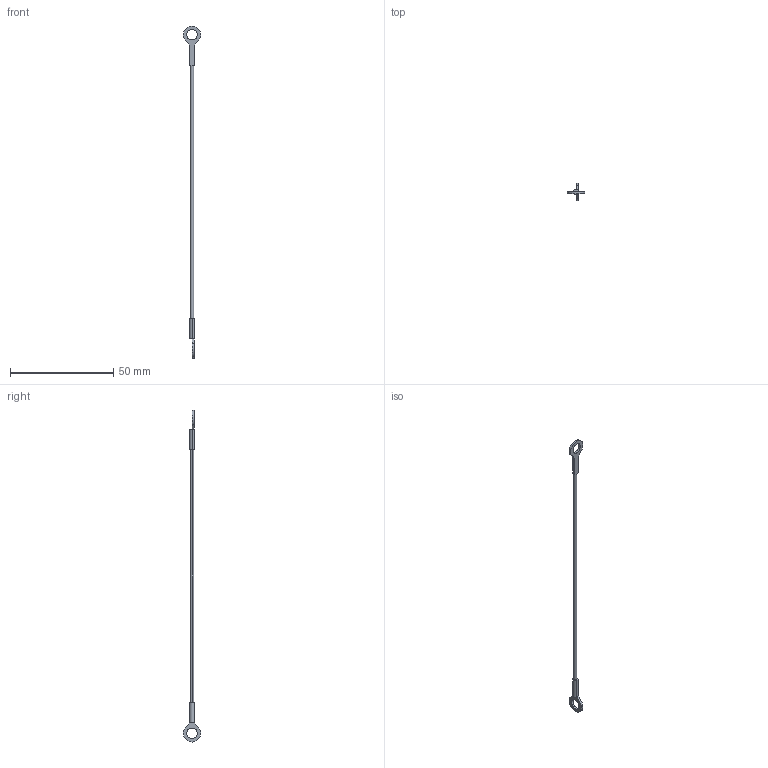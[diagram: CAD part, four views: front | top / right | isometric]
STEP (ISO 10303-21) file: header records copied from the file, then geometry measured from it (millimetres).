
FILE_DESCRIPTION (( 'STEP AP203' ), '1' );
FILE_NAME ('LA1070.I04-152C1.step', '2026-03-23T14:46:02', ( '' ), ( '' ), 'SwSTEP 2.0', 'SolidWorks 2019', '' );
FILE_SCHEMA (( 'CONFIG_CONTROL_DESIGN' ));
Length unit declared in the file: millimetre
Products named in the file (1): LA1070.I04-152C1
Bounding box: 8.38 x 8.38 x 160.78 mm (x, y, z)
Volume: 422.9 mm3; surface area: 1031 mm2
Topology: 1 solids, 1 shells, 27 faces, 65 edges, 42 vertices
Faces by surface type: plane 16, cylinder 11
Entity records: 874 total; most frequent: DIRECTION 143, CARTESIAN_POINT 135, ORIENTED_EDGE 130, EDGE_CURVE 65, AXIS2_PLACEMENT_3D 50, VECTOR 43, LINE 43, VERTEX_POINT 42
